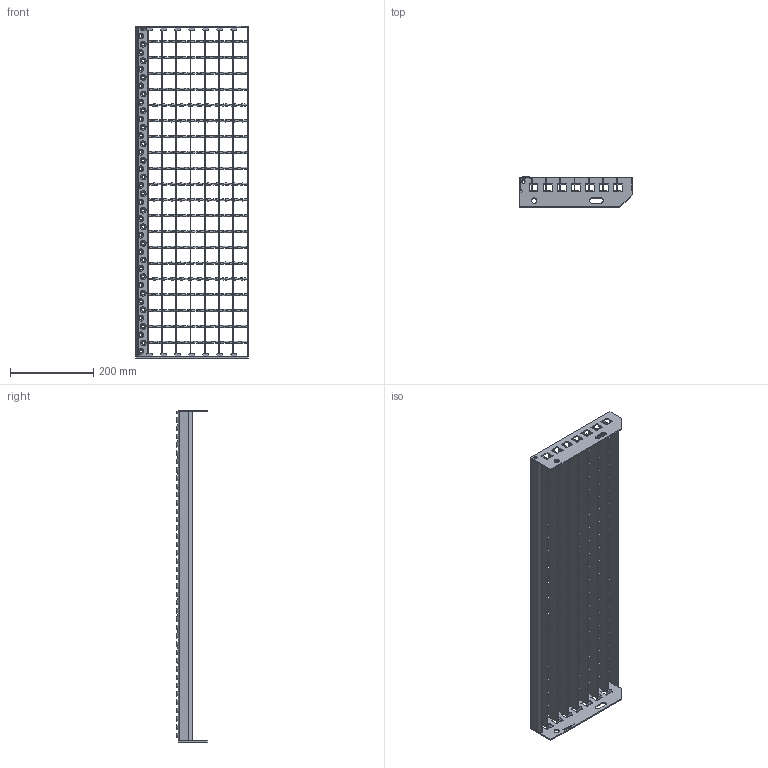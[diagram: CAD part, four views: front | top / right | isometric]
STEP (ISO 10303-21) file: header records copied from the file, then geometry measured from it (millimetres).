
FILE_DESCRIPTION(/* description */ (''),/* implementation_level */ '2;1');
FILE_NAME(/* name */ 'M:\Abteilung\TB\Inventor\Vortkamp\2_STEP-Dateien\2_Stufen\SP 230-34x38-2 800x270.stp',/* time_stamp */ '2021-11-22T13:29:05+01:00',/* author */ ('jvortkamp'),/* organization */ (''),/* preprocessor_version */ 'ST-DEVELOPER v18.1',/* originating_system */ 'Autodesk Inventor 2022',/* authorisation */ '');
FILE_SCHEMA (('AUTOMOTIVE_DESIGN { 1 0 10303 214 3 1 1 }'));
Length unit declared in the file: millimetre
Products named in the file (8): Schweißpressroststufe; Seitenplatte ausgeklinkt links; Seitenplatte ausgeklinkt rechts; Antrittskante; Hinteres Flach; Schweißpressroststufe Rohling; Tragstab; Querstab
Assembly tree (32 placements, depth 3):
  Schweißpressroststufe
    Seitenplatte ausgeklinkt links
    Seitenplatte ausgeklinkt rechts
    Antrittskante
    Hinteres Flach
    Schweißpressroststufe Rohling
      Tragstab  x7
      Querstab  x20
Bounding box: 271.31 x 72.75 x 800 mm (x, y, z)
Volume: 655525.8 mm3; surface area: 656334.2 mm2
Topology: 31 solids, 31 shells, 1122 faces, 2967 edges, 1924 vertices
Faces by surface type: plane 562, cylinder 292, cone 120, bspline 108, torus 40
Full cylindrical faces by diameter (mm): 8 x2, 13 x2
Entity records: 29045 total; most frequent: CARTESIAN_POINT 9689, DIRECTION 3981, ORIENTED_EDGE 3894, EDGE_CURVE 1947, AXIS2_PLACEMENT_3D 1362, LINE 1257, VECTOR 1257, VERTEX_POINT 1244
